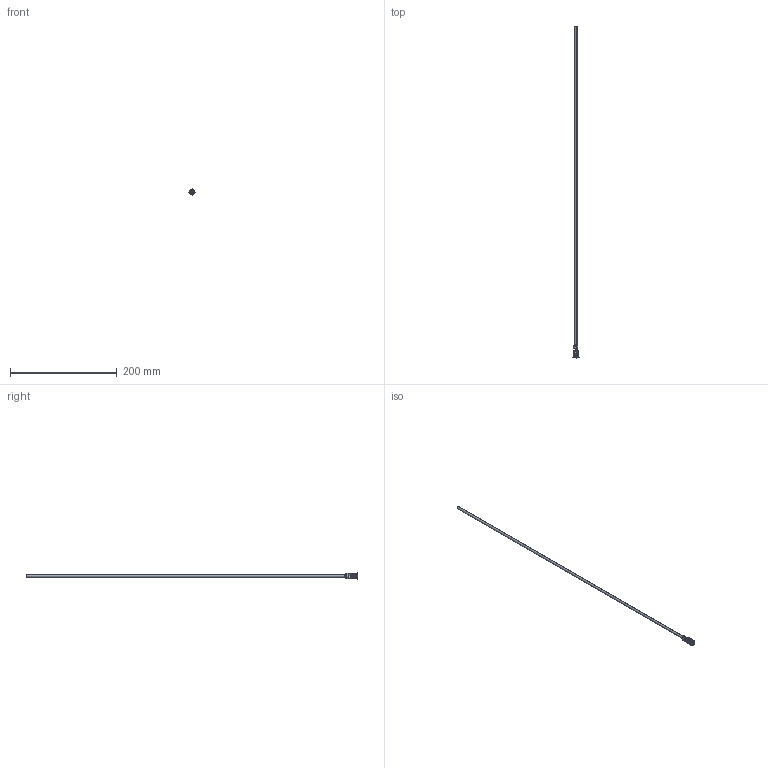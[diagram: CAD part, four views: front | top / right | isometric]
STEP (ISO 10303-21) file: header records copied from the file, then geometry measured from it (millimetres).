
FILE_DESCRIPTION (( 'STEP AP203' ), '1' );
FILE_NAME ('RF-10F_5 x600.STEP', '2015-11-20T08:31:18', ( 'Balzi' ), ( '' ), 'SwSTEP 2.0', 'SolidWorks 2015', '' );
FILE_SCHEMA (( 'CONFIG_CONTROL_DESIGN' ));
Length unit declared in the file: millimetre
Products named in the file (1): RF-10F_5 x600
Bounding box: 11.3 x 622.5 x 11.3 mm (x, y, z)
Volume: 3411.4 mm3; surface area: 19214.7 mm2
Topology: 1 solids, 1 shells, 71 faces, 164 edges, 102 vertices
Faces by surface type: plane 26, cylinder 25, cone 12, torus 8
Entity records: 2114 total; most frequent: DIRECTION 385, CARTESIAN_POINT 357, ORIENTED_EDGE 328, EDGE_CURVE 164, AXIS2_PLACEMENT_3D 154, VERTEX_POINT 102, CIRCLE 82, EDGE_LOOP 80
